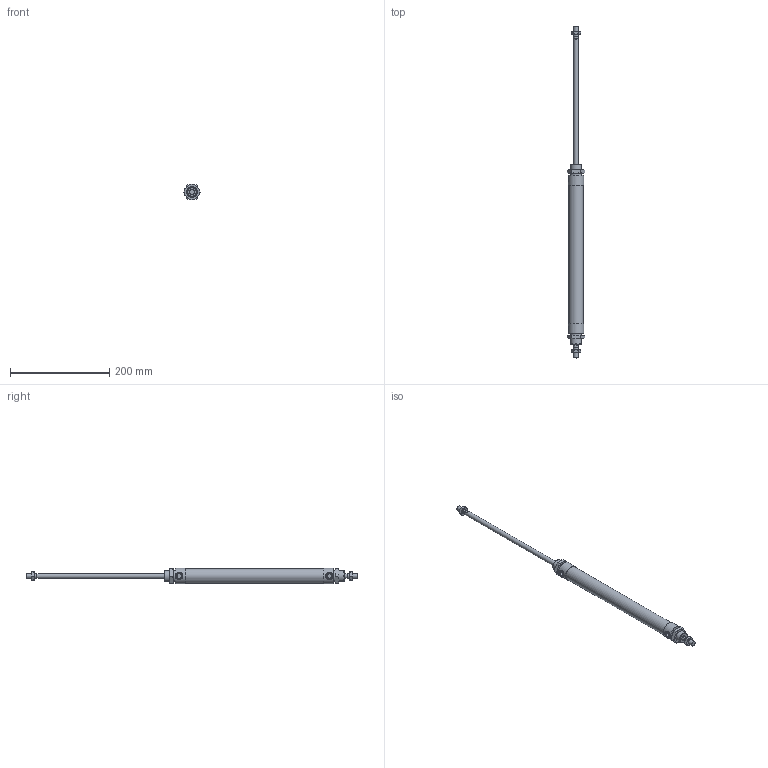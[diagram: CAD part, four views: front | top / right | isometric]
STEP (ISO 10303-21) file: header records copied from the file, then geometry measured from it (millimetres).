
FILE_DESCRIPTION((''),'2;1');
FILE_NAME('L:\Lib-3d\1200\CILINDRI\1232\1232_25_0250.stp','2006-01-05T14:36:48',('medicfa1'),(''),'Autodesk Inventor 10','Autodesk Inventor 10','');
FILE_SCHEMA(('AUTOMOTIVE_DESIGN { 1 0 10303 214 1 1 1 1 }'));
Length unit declared in the file: millimetre
Products named in the file (5): 1232_25_0250; C1232_25_250; S1232_25_250; 1200_25_05; 1200_25_06
Assembly tree (6 placements, depth 2):
  1232_25_0250
    C1232_25_250
    S1232_25_250
    1200_25_05  x2
    1200_25_06  x2
Bounding box: 34.64 x 668 x 31.5 mm (x, y, z)
Volume: 262779.5 mm3; surface area: 72665.3 mm2
Topology: 6 solids, 6 shells, 141 faces, 299 edges, 178 vertices
Faces by surface type: plane 62, cone 54, cylinder 15, bspline 10
Full cylindrical faces by diameter (mm): 8.7 x2, 8.8 x2, 10 x4, 15 x2, 22 x2, 29 x1, 31.5 x2
Entity records: 2620 total; most frequent: CARTESIAN_POINT 721, DIRECTION 390, ORIENTED_EDGE 324, AXIS2_PLACEMENT_3D 177, EDGE_CURVE 162, EDGE_LOOP 136, VERTEX_POINT 110, FACE_OUTER_BOUND 95
